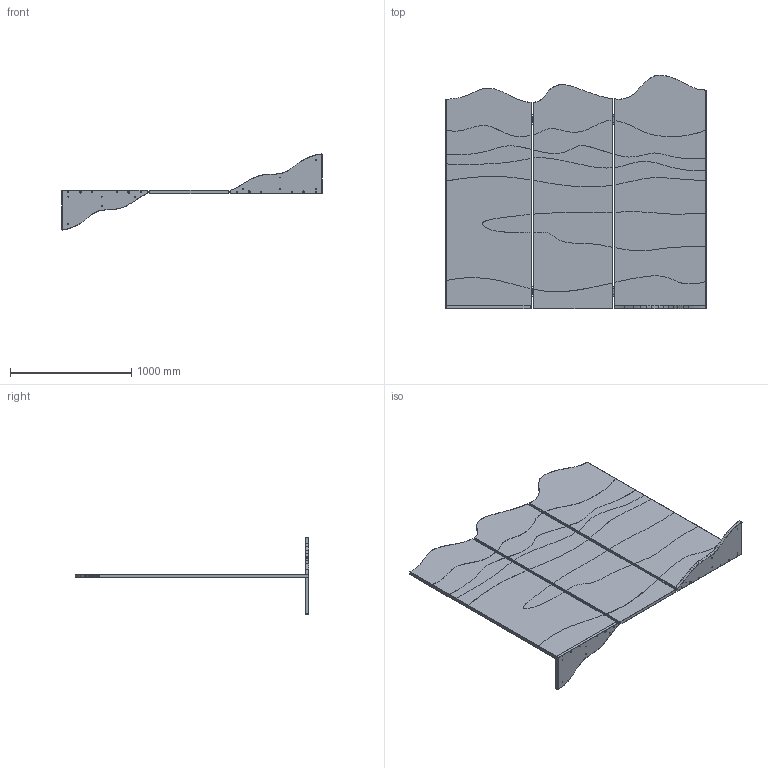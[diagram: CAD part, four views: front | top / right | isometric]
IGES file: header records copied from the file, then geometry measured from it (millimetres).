
Start section: SolidWorks IGES file using analytic representation for surfaces
Global section: file name: C:\VaultDeCastelli\Progetti\DC\PESO LEGGERO PRODOTTI\Ale\DeCastelli-3D-Painting.igs; native system: SolidWorks 2022; preprocessor: SolidWorks 2022; author: AlessandroP; date: 240719.130113; units: millimetre
Bounding box: 2142.87 x 1922.37 x 627.49 mm (x, y, z)
Surface area: 18796706.1 mm2 (no closed solid volume)
Topology: 0 solids, 0 shells, 415 faces, 6223 edges, 6223 vertices
Faces by surface type: revolution 246, bspline 169
